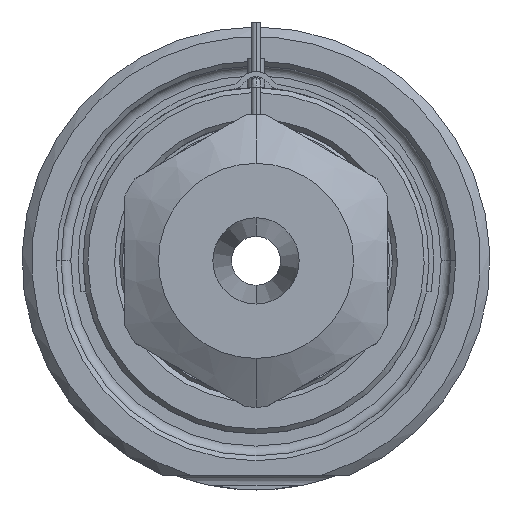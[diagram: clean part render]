
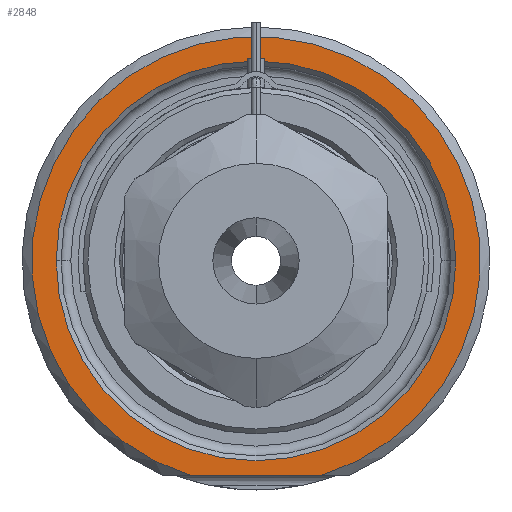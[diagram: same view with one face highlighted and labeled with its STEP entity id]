
A CAD part, front view. The second image highlights one B-rep face of the part: STEP entity #2848.
In plain terms, the highlighted planar face has unit normal (0, -1, 0).
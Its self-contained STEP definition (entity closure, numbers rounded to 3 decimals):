
#1=DIRECTION('',(1.,0.,0.));
#2=VECTOR('',#1,13.416);
#3=CARTESIAN_POINT('',(-6.708,0.,-22.));
#4=LINE('',#3,#2);
#5=CARTESIAN_POINT('',(0.,0.,0.));
#6=DIRECTION('',(0.,1.,0.));
#7=DIRECTION('',(-1.,0.,0.));
#8=AXIS2_PLACEMENT_3D('',#5,#6,#7);
#10=CARTESIAN_POINT('',(0.,0.,0.));
#11=DIRECTION('',(0.,1.,0.));
#12=DIRECTION('',(1.,0.,0.));
#13=AXIS2_PLACEMENT_3D('',#10,#11,#12);
#121=CARTESIAN_POINT('',(0.,0.,0.));
#122=DIRECTION('',(0.,-1.,0.));
#123=DIRECTION('',(0.292,0.,-0.957));
#124=AXIS2_PLACEMENT_3D('',#121,#122,#123);
#2365=CARTESIAN_POINT('',(-20.5,0.,0.));
#2366=CARTESIAN_POINT('',(20.5,0.,0.));
#2367=VERTEX_POINT('',#2365);
#2368=VERTEX_POINT('',#2366);
#2405=CARTESIAN_POINT('',(-6.708,0.,-22.));
#2406=CARTESIAN_POINT('',(6.708,0.,-22.));
#2407=VERTEX_POINT('',#2405);
#2408=VERTEX_POINT('',#2406);
#2831=CARTESIAN_POINT('',(0.,0.,0.));
#2832=DIRECTION('',(0.,-1.,0.));
#2833=DIRECTION('',(1.,0.,0.));
#2834=AXIS2_PLACEMENT_3D('',#2831,#2832,#2833);
#2835=PLANE('',#2834);
#2837=ORIENTED_EDGE('',*,*,#2836,.F.);
#2839=ORIENTED_EDGE('',*,*,#2838,.F.);
#2840=EDGE_LOOP('',(#2837,#2839));
#2841=FACE_OUTER_BOUND('',#2840,.F.);
#2843=ORIENTED_EDGE('',*,*,#2842,.F.);
#2845=ORIENTED_EDGE('',*,*,#2844,.F.);
#2846=EDGE_LOOP('',(#2843,#2845));
#2847=FACE_BOUND('',#2846,.F.);
#2848=ADVANCED_FACE('',(#2841,#2847),#2835,.T.);
#9=CIRCLE('',#8,20.5);
#14=CIRCLE('',#13,20.5);
#125=CIRCLE('',#124,23.);
#2836=EDGE_CURVE('',#2407,#2408,#4,.T.);
#2838=EDGE_CURVE('',#2408,#2407,#125,.T.);
#2842=EDGE_CURVE('',#2367,#2368,#9,.T.);
#2844=EDGE_CURVE('',#2368,#2367,#14,.T.);
